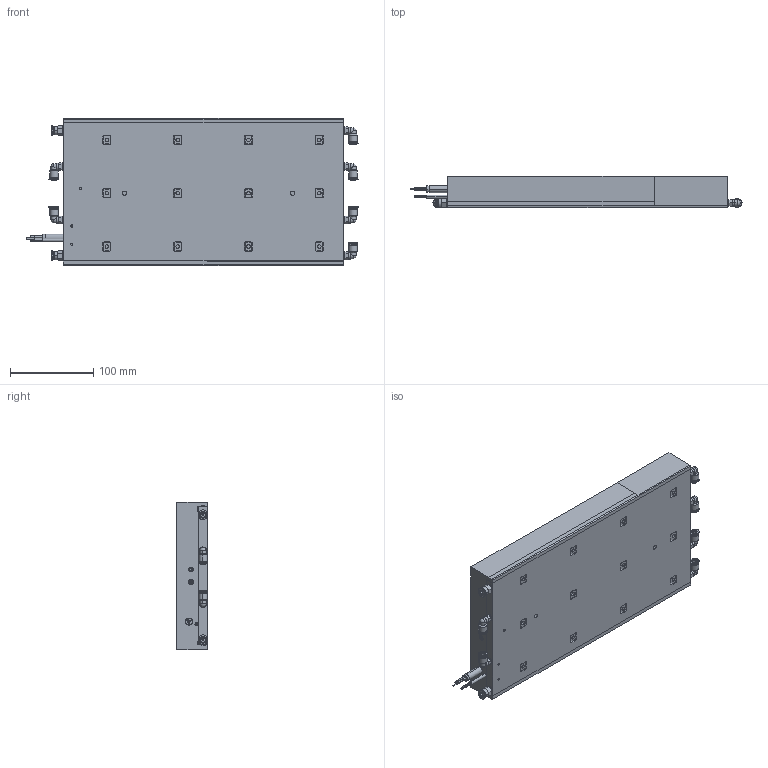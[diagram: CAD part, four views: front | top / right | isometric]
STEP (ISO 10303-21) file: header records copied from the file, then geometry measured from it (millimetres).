
FILE_DESCRIPTION (( 'STEP AP203' ), '1' );
FILE_NAME ('IC177WC-18 3D.STEP', '2021-12-13T02:16:21', ( '' ), ( '' ), 'SwSTEP 2.0', 'SolidWorks 2021', '' );
FILE_SCHEMA (( 'CONFIG_CONTROL_DESIGN' ));
Length unit declared in the file: millimetre
Products named in the file (1): IC177WC-18 3D
Bounding box: 398.4 x 37 x 177.15 mm (x, y, z)
Volume: 2191833 mm3; surface area: 343091.1 mm2
Topology: 19 solids, 19 shells, 1155 faces, 2786 edges, 1698 vertices
Faces by surface type: cylinder 417, plane 416, cone 234, torus 58, sphere 30
Entity records: 34529 total; most frequent: CARTESIAN_POINT 7328, DIRECTION 5854, ORIENTED_EDGE 5512, EDGE_CURVE 2756, AXIS2_PLACEMENT_3D 2244, VERTEX_POINT 1698, VECTOR 1366, LINE 1366
